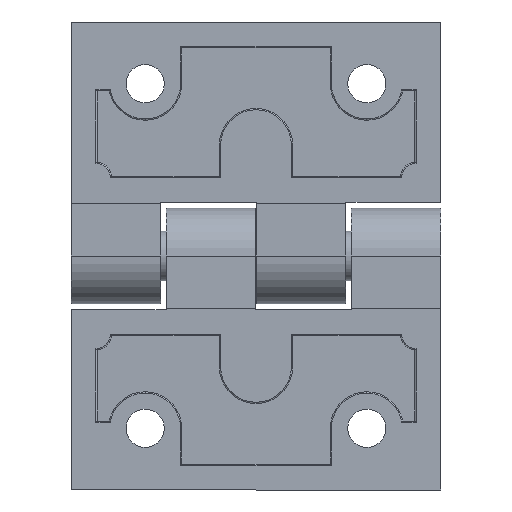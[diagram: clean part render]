
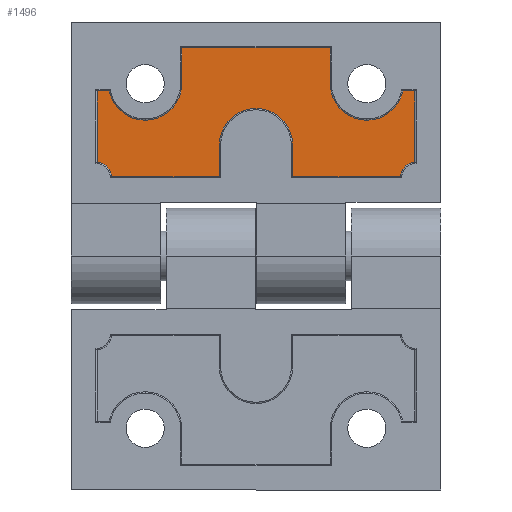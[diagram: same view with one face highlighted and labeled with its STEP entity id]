
A CAD part, front view. The second image highlights one B-rep face of the part: STEP entity #1496.
In plain terms, the highlighted planar face has unit normal (0, -1, 0).
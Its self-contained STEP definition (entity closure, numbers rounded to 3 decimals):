
#764 = VERTEX_POINT ( 'NONE', #3082 ) ;
#766 = EDGE_CURVE ( 'NONE', #767, #764, #3081, .T. ) ;
#767 = VERTEX_POINT ( 'NONE', #3139 ) ;
#828 = VERTEX_POINT ( 'NONE', #3249 ) ;
#830 = EDGE_CURVE ( 'NONE', #831, #828, #3248, .T. ) ;
#831 = VERTEX_POINT ( 'NONE', #3243 ) ;
#1496 = ADVANCED_FACE ( 'NONE', ( #4849 ), #4844, .T. ) ;
#1497 = EDGE_LOOP ( 'NONE', ( #1498, #1502, #1563, #1566, #1569, #1572, #1575, #1550, #1552, #1553, #1556, #1559, #1534, #1536, #1537, #1540, #1543, #1546 ) ) ;
#1498 = ORIENTED_EDGE ( 'NONE', *, *, #1499, .T. ) ;
#1499 = EDGE_CURVE ( 'NONE', #1500, #1501, #4842, .T. ) ;
#1500 = VERTEX_POINT ( 'NONE', #4835 ) ;
#1501 = VERTEX_POINT ( 'NONE', #4834 ) ;
#1502 = ORIENTED_EDGE ( 'NONE', *, *, #1503, .T. ) ;
#1503 = EDGE_CURVE ( 'NONE', #1501, #1562, #4833, .T. ) ;
#1534 = ORIENTED_EDGE ( 'NONE', *, *, #1535, .T. ) ;
#1535 = EDGE_CURVE ( 'NONE', #1561, #767, #4905, .T. ) ;
#1536 = ORIENTED_EDGE ( 'NONE', *, *, #766, .T. ) ;
#1537 = ORIENTED_EDGE ( 'NONE', *, *, #1538, .T. ) ;
#1538 = EDGE_CURVE ( 'NONE', #764, #1539, #4901, .T. ) ;
#1539 = VERTEX_POINT ( 'NONE', #4896 ) ;
#1540 = ORIENTED_EDGE ( 'NONE', *, *, #1541, .T. ) ;
#1541 = EDGE_CURVE ( 'NONE', #1539, #1542, #4895, .T. ) ;
#1542 = VERTEX_POINT ( 'NONE', #4891 ) ;
#1543 = ORIENTED_EDGE ( 'NONE', *, *, #1544, .T. ) ;
#1544 = EDGE_CURVE ( 'NONE', #1542, #1545, #4890, .T. ) ;
#1545 = VERTEX_POINT ( 'NONE', #4886 ) ;
#1546 = ORIENTED_EDGE ( 'NONE', *, *, #1547, .T. ) ;
#1547 = EDGE_CURVE ( 'NONE', #1545, #1500, #4948, .T. ) ;
#1549 = VERTEX_POINT ( 'NONE', #4942 ) ;
#1550 = ORIENTED_EDGE ( 'NONE', *, *, #1551, .T. ) ;
#1551 = EDGE_CURVE ( 'NONE', #1549, #831, #4937, .T. ) ;
#1552 = ORIENTED_EDGE ( 'NONE', *, *, #830, .T. ) ;
#1553 = ORIENTED_EDGE ( 'NONE', *, *, #1554, .T. ) ;
#1554 = EDGE_CURVE ( 'NONE', #828, #1555, #4933, .T. ) ;
#1555 = VERTEX_POINT ( 'NONE', #4928 ) ;
#1556 = ORIENTED_EDGE ( 'NONE', *, *, #1557, .T. ) ;
#1557 = EDGE_CURVE ( 'NONE', #1555, #1558, #4927, .T. ) ;
#1558 = VERTEX_POINT ( 'NONE', #4923 ) ;
#1559 = ORIENTED_EDGE ( 'NONE', *, *, #1560, .T. ) ;
#1560 = EDGE_CURVE ( 'NONE', #1558, #1561, #4922, .T. ) ;
#1561 = VERTEX_POINT ( 'NONE', #4918 ) ;
#1562 = VERTEX_POINT ( 'NONE', #4979 ) ;
#1563 = ORIENTED_EDGE ( 'NONE', *, *, #1564, .T. ) ;
#1564 = EDGE_CURVE ( 'NONE', #1562, #1565, #4978, .T. ) ;
#1565 = VERTEX_POINT ( 'NONE', #4973 ) ;
#1566 = ORIENTED_EDGE ( 'NONE', *, *, #1567, .T. ) ;
#1567 = EDGE_CURVE ( 'NONE', #1565, #1568, #4972, .T. ) ;
#1568 = VERTEX_POINT ( 'NONE', #4968 ) ;
#1569 = ORIENTED_EDGE ( 'NONE', *, *, #1570, .T. ) ;
#1570 = EDGE_CURVE ( 'NONE', #1568, #1571, #4967, .T. ) ;
#1571 = VERTEX_POINT ( 'NONE', #4963 ) ;
#1572 = ORIENTED_EDGE ( 'NONE', *, *, #1573, .T. ) ;
#1573 = EDGE_CURVE ( 'NONE', #1571, #1574, #4962, .T. ) ;
#1574 = VERTEX_POINT ( 'NONE', #4957 ) ;
#1575 = ORIENTED_EDGE ( 'NONE', *, *, #1576, .T. ) ;
#1576 = EDGE_CURVE ( 'NONE', #1574, #1549, #4956, .T. ) ;
#3081 = CIRCLE ( 'NONE', #3143, 5.95 ) ;
#3082 = CARTESIAN_POINT ( 'NONE',  ( -22.05, -4., 12. ) ) ;
#3139 = CARTESIAN_POINT ( 'NONE',  ( -28., -4., 17.95 ) ) ;
#3140 = DIRECTION ( 'NONE',  ( 1., 0., 0. ) ) ;
#3141 = DIRECTION ( 'NONE',  ( 0., 1., 0. ) ) ;
#3142 = CARTESIAN_POINT ( 'NONE',  ( -28., -4., 12. ) ) ;
#3143 = AXIS2_PLACEMENT_3D ( 'NONE', #3142, #3141, #3140 ) ;
#3243 = CARTESIAN_POINT ( 'NONE',  ( -26.8, -4., 53.828 ) ) ;
#3244 = DIRECTION ( 'NONE',  ( 1., 0., 0. ) ) ;
#3245 = DIRECTION ( 'NONE',  ( 0., 1., 0. ) ) ;
#3246 = CARTESIAN_POINT ( 'NONE',  ( -28., -4., 48. ) ) ;
#3247 = AXIS2_PLACEMENT_3D ( 'NONE', #3246, #3245, #3244 ) ;
#3248 = CIRCLE ( 'NONE', #3247, 5.95 ) ;
#3249 = CARTESIAN_POINT ( 'NONE',  ( -22.05, -4., 48. ) ) ;
#4830 = DIRECTION ( 'NONE',  ( -1., 0., 0. ) ) ;
#4831 = VECTOR ( 'NONE', #4830, 1000. ) ;
#4832 = CARTESIAN_POINT ( 'NONE',  ( -18., -4., 24.05 ) ) ;
#4833 = LINE ( 'NONE', #4832, #4831 ) ;
#4834 = CARTESIAN_POINT ( 'NONE',  ( -12.9, -4., 24.05 ) ) ;
#4835 = CARTESIAN_POINT ( 'NONE',  ( -12.9, -4., 6.535 ) ) ;
#4836 = DIRECTION ( 'NONE',  ( 0., 0., 1. ) ) ;
#4837 = VECTOR ( 'NONE', #4836, 1000. ) ;
#4838 = CARTESIAN_POINT ( 'NONE',  ( -12.9, -4., 30. ) ) ;
#4839 = DIRECTION ( 'NONE',  ( 1., 0., 0. ) ) ;
#4840 = DIRECTION ( 'NONE',  ( 0., -1., 0. ) ) ;
#4841 = AXIS2_PLACEMENT_3D ( 'NONE', #4843, #4840, #4839 ) ;
#4842 = LINE ( 'NONE', #4838, #4837 ) ;
#4843 = CARTESIAN_POINT ( 'NONE',  ( -18., -4., 30. ) ) ;
#4844 = PLANE ( 'NONE',  #4841 ) ;
#4849 = FACE_OUTER_BOUND ( 'NONE', #1497, .T. ) ;
#4886 = CARTESIAN_POINT ( 'NONE',  ( -15.235, -4., 4.2 ) ) ;
#4887 = DIRECTION ( 'NONE',  ( 1., 0., 0. ) ) ;
#4888 = VECTOR ( 'NONE', #4887, 1000. ) ;
#4889 = CARTESIAN_POINT ( 'NONE',  ( -18., -4., 4.2 ) ) ;
#4890 = LINE ( 'NONE', #4889, #4888 ) ;
#4891 = CARTESIAN_POINT ( 'NONE',  ( -26.8, -4., 4.2 ) ) ;
#4892 = DIRECTION ( 'NONE',  ( 0., 0., -1. ) ) ;
#4893 = VECTOR ( 'NONE', #4892, 1000. ) ;
#4894 = CARTESIAN_POINT ( 'NONE',  ( -26.8, -4., 30. ) ) ;
#4895 = LINE ( 'NONE', #4894, #4893 ) ;
#4896 = CARTESIAN_POINT ( 'NONE',  ( -26.8, -4., 6.172 ) ) ;
#4897 = DIRECTION ( 'NONE',  ( 1., 0., 0. ) ) ;
#4898 = DIRECTION ( 'NONE',  ( 0., 1., 0. ) ) ;
#4899 = CARTESIAN_POINT ( 'NONE',  ( -28., -4., 12. ) ) ;
#4900 = AXIS2_PLACEMENT_3D ( 'NONE', #4899, #4898, #4897 ) ;
#4901 = CIRCLE ( 'NONE', #4900, 5.95 ) ;
#4902 = DIRECTION ( 'NONE',  ( 1., 0., 0. ) ) ;
#4903 = VECTOR ( 'NONE', #4902, 1000. ) ;
#4904 = CARTESIAN_POINT ( 'NONE',  ( -18., -4., 17.95 ) ) ;
#4905 = LINE ( 'NONE', #4904, #4903 ) ;
#4918 = CARTESIAN_POINT ( 'NONE',  ( -33.8, -4., 17.95 ) ) ;
#4919 = DIRECTION ( 'NONE',  ( 0., 0., -1. ) ) ;
#4920 = VECTOR ( 'NONE', #4919, 1000. ) ;
#4921 = CARTESIAN_POINT ( 'NONE',  ( -33.8, -4., 30. ) ) ;
#4922 = LINE ( 'NONE', #4921, #4920 ) ;
#4923 = CARTESIAN_POINT ( 'NONE',  ( -33.8, -4., 42.05 ) ) ;
#4924 = DIRECTION ( 'NONE',  ( -1., 0., 0. ) ) ;
#4925 = VECTOR ( 'NONE', #4924, 1000. ) ;
#4926 = CARTESIAN_POINT ( 'NONE',  ( -18., -4., 42.05 ) ) ;
#4927 = LINE ( 'NONE', #4926, #4925 ) ;
#4928 = CARTESIAN_POINT ( 'NONE',  ( -28., -4., 42.05 ) ) ;
#4929 = DIRECTION ( 'NONE',  ( 1., 0., 0. ) ) ;
#4930 = DIRECTION ( 'NONE',  ( 0., 1., 0. ) ) ;
#4931 = CARTESIAN_POINT ( 'NONE',  ( -28., -4., 48. ) ) ;
#4932 = AXIS2_PLACEMENT_3D ( 'NONE', #4931, #4930, #4929 ) ;
#4933 = CIRCLE ( 'NONE', #4932, 5.95 ) ;
#4934 = DIRECTION ( 'NONE',  ( 0., 0., -1. ) ) ;
#4935 = VECTOR ( 'NONE', #4934, 1000. ) ;
#4936 = CARTESIAN_POINT ( 'NONE',  ( -26.8, -4., 30. ) ) ;
#4937 = LINE ( 'NONE', #4936, #4935 ) ;
#4942 = CARTESIAN_POINT ( 'NONE',  ( -26.8, -4., 55.8 ) ) ;
#4944 = DIRECTION ( 'NONE',  ( 1., 0., 0. ) ) ;
#4945 = DIRECTION ( 'NONE',  ( 0., 1., 0. ) ) ;
#4946 = CARTESIAN_POINT ( 'NONE',  ( -12.7, -4., 4. ) ) ;
#4947 = AXIS2_PLACEMENT_3D ( 'NONE', #4946, #4945, #4944 ) ;
#4948 = CIRCLE ( 'NONE', #4947, 2.543 ) ;
#4953 = DIRECTION ( 'NONE',  ( -1., 0., 0. ) ) ;
#4954 = VECTOR ( 'NONE', #4953, 1000. ) ;
#4955 = CARTESIAN_POINT ( 'NONE',  ( -18., -4., 55.8 ) ) ;
#4956 = LINE ( 'NONE', #4955, #4954 ) ;
#4957 = CARTESIAN_POINT ( 'NONE',  ( -15.235, -4., 55.8 ) ) ;
#4958 = DIRECTION ( 'NONE',  ( 1., 0., 0. ) ) ;
#4959 = DIRECTION ( 'NONE',  ( 0., 1., 0. ) ) ;
#4960 = CARTESIAN_POINT ( 'NONE',  ( -12.7, -4., 56. ) ) ;
#4961 = AXIS2_PLACEMENT_3D ( 'NONE', #4960, #4959, #4958 ) ;
#4962 = CIRCLE ( 'NONE', #4961, 2.543 ) ;
#4963 = CARTESIAN_POINT ( 'NONE',  ( -12.9, -4., 53.465 ) ) ;
#4964 = DIRECTION ( 'NONE',  ( 0., 0., 1. ) ) ;
#4965 = VECTOR ( 'NONE', #4964, 1000. ) ;
#4966 = CARTESIAN_POINT ( 'NONE',  ( -12.9, -4., 30. ) ) ;
#4967 = LINE ( 'NONE', #4966, #4965 ) ;
#4968 = CARTESIAN_POINT ( 'NONE',  ( -12.9, -4., 35.95 ) ) ;
#4969 = DIRECTION ( 'NONE',  ( 1., 0., 0. ) ) ;
#4970 = VECTOR ( 'NONE', #4969, 1000. ) ;
#4971 = CARTESIAN_POINT ( 'NONE',  ( -18., -4., 35.95 ) ) ;
#4972 = LINE ( 'NONE', #4971, #4970 ) ;
#4973 = CARTESIAN_POINT ( 'NONE',  ( -18., -4., 35.95 ) ) ;
#4974 = DIRECTION ( 'NONE',  ( 1., 0., 0. ) ) ;
#4975 = DIRECTION ( 'NONE',  ( 0., 1., 0. ) ) ;
#4976 = CARTESIAN_POINT ( 'NONE',  ( -18., -4., 30. ) ) ;
#4977 = AXIS2_PLACEMENT_3D ( 'NONE', #4976, #4975, #4974 ) ;
#4978 = CIRCLE ( 'NONE', #4977, 5.95 ) ;
#4979 = CARTESIAN_POINT ( 'NONE',  ( -18., -4., 24.05 ) ) ;
